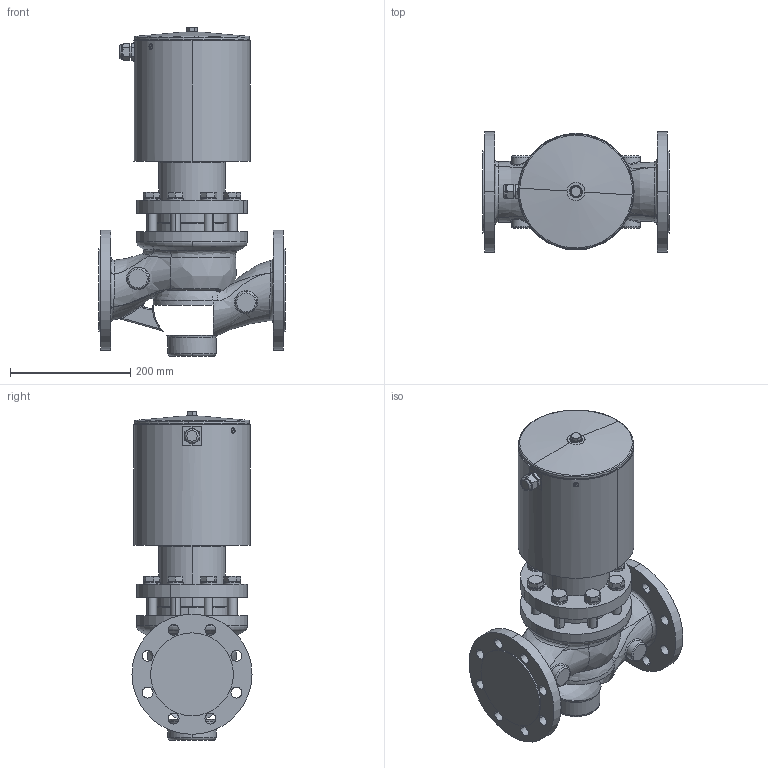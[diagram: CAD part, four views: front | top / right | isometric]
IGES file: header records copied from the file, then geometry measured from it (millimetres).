
Global section: file name: No Iges File Name specified; native system: AutoDesk Inventor R12.0; preprocessor: AutoDesk Inventor Iges Exporter R12.0; date: 20091112.102138; units: millimetre
Bounding box: 310 x 200 x 547.45 mm (x, y, z)
Volume: 11852841.9 mm3; surface area: 609488 mm2
Topology: 1 solids, 1 shells, 481 faces, 1188 edges, 737 vertices
Faces by surface type: plane 155, bspline 122, cylinder 102, cone 70, torus 21, revolution 8, sphere 3
